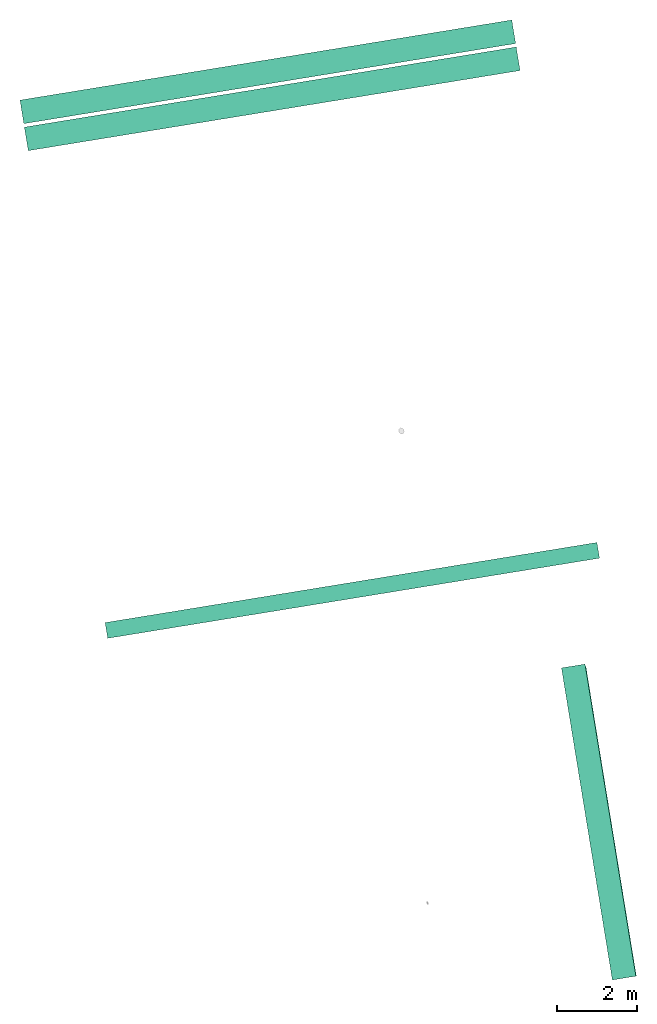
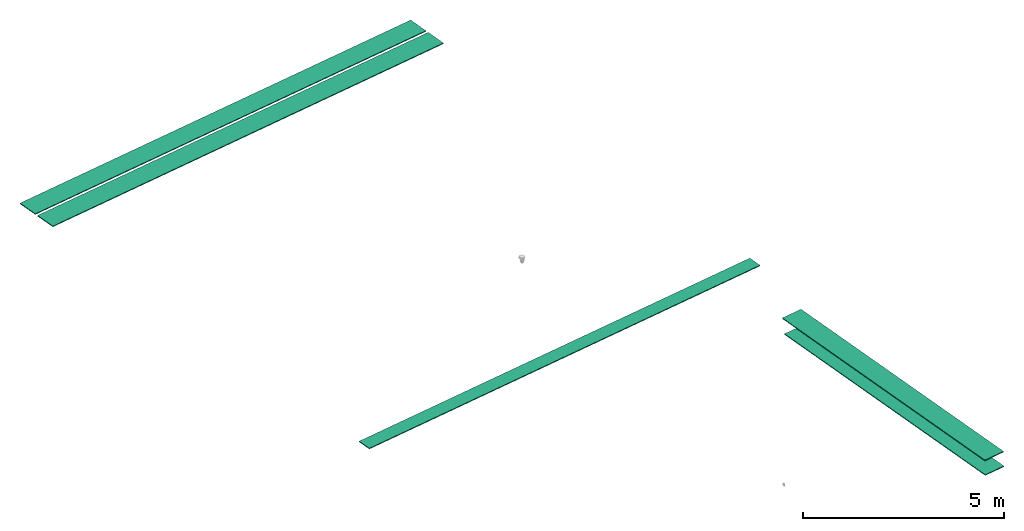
# One storey, part 1 of 2: 5 flow segments.
"""IFC2X3 building model written with IfcOpenShell, lengths in millimetres."""

from ifc_helpers import new_model, entity, si_unit, converted_unit, derived_unit, direction, frame, origin, origin_with_axes, place, context, subcontext, project, spatial, faceted_brep, material, type_object, element, save


model = new_model("IFC2X3")

# Units and contexts
model_context = context("Model", 3, precision=0.01, world=origin(), true_north=direction((6.12323399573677e-17, 1.0)))
plan_context = context("Plan", 3, precision=1e-05, world=origin_with_axes())
body_context = subcontext(model_context, "Body", "Model", "MODEL_VIEW")
ifc_project = project(units=[converted_unit("PLANEANGLEUNIT", "DEGREE", entity("IfcPositiveLengthMeasure", 0.0174532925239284), si_unit("PLANEANGLEUNIT", "RADIAN"), dimensions=[0, 0, 0, 0, 0, 0, 0]), si_unit("AREAUNIT", "SQUARE_METRE"), si_unit("LENGTHUNIT", "METRE", prefix="MILLI"), si_unit("MASSUNIT", "GRAM", prefix="KILO"), si_unit("POWERUNIT", "WATT"), si_unit("PRESSUREUNIT", "PASCAL", prefix="KILO"), si_unit("FORCEUNIT", "NEWTON", prefix="KILO"), si_unit("ELECTRICVOLTAGEUNIT", "VOLT"), si_unit("ELECTRICCURRENTUNIT", "AMPERE"), si_unit("THERMODYNAMICTEMPERATUREUNIT", "DEGREE_CELSIUS"), si_unit("TIMEUNIT", "SECOND"), si_unit("VOLUMEUNIT", "CUBIC_METRE"), derived_unit("LINEARVELOCITYUNIT", [(si_unit("LENGTHUNIT", "METRE"), 1), (si_unit("TIMEUNIT", "SECOND"), -1)]), derived_unit("VOLUMETRICFLOWRATEUNIT", [(si_unit("VOLUMEUNIT", "CUBIC_METRE"), 1), (si_unit("TIMEUNIT", "SECOND"), -1)]), derived_unit("THERMALTRANSMITTANCEUNIT", [(si_unit("POWERUNIT", "WATT"), 1), (si_unit("THERMODYNAMICTEMPERATUREUNIT", "KELVIN"), -1), (si_unit("AREAUNIT", "SQUARE_METRE"), -1)]), derived_unit("SOUNDPRESSUREUNIT", [(si_unit("PRESSUREUNIT", "PASCAL"), 1)])], contexts=[model_context, plan_context])

# Site, building, storey
site_placement = place(None, frame((5.09380697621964e-08, 5.80416781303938e-08, 0.0), z_axis=(0.0, 0.0, 1.0), x_axis=(-0.160806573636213, 0.986985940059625, 0.0)))
site = spatial("IfcSite", under=ifc_project, at=site_placement, Name="Default", CompositionType="ELEMENT")
building_placement = place(site_placement, frame((0.0, 0.0, 0.0), z_axis=(0.0, 0.0, 1.0), x_axis=(1.0, -2.77555756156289e-17, 0.0)))
building = spatial("IfcBuilding", under=site, at=building_placement, Name="Bygning (endres i Project Information)", CompositionType="ELEMENT")
storey_placement = place(building_placement, frame((0.0, 0.0, 51360.0000000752), z_axis=(0.0, 0.0, 1.0), x_axis=(1.0, -2.77555756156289e-17, 0.0)))
storey = spatial("IfcBuildingStorey", under=building, at=storey_placement, Name="H01-Nivå D+0,36", CompositionType="ELEMENT", Elevation=51360.0000000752)

# Flow segments
ifc_material = material(Name="Kabelstige")
cable_carrier_segment_type = type_object("IfcCableCarrierSegmentType", Name="Cable Tray with Fittings:Kabelstige", PredefinedType="CABLETRAYSEGMENT", material=ifc_material)
flow_segment_1_placement = place(storey_placement, frame((0.0, 0.0, 0.0), z_axis=(0.0, 0.0, 1.0), x_axis=(1.0, -2.77555756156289e-17, 0.0)))
element("IfcFlowSegment", 1, at=flow_segment_1_placement, inside=storey, type_object=cable_carrier_segment_type, Name="Cable Tray with Fittings:Kabelstige", ObjectType="Cable Tray with Fittings:Kabelstige", context=body_context, shape_type="Brep", body=[
    faceted_brep([(1002553.4395666, -384051.763990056, 3430.0), (1002553.4395666, -384051.763990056, 3454.99999999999), (1002553.4395666, -396579.084056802, 3454.99999999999), (1002553.4395666, -396579.084056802, 3430.0), (1002953.4395666, -396579.084056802, 3430.0), (1002953.4395666, -396579.084056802, 3454.99999999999), (1002953.4395666, -384051.763990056, 3454.99999999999), (1002953.4395666, -384051.763990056, 3430.0)], [[[0, 1, 2, 3]], [[4, 5, 6, 7]], [[7, 0, 3, 4]], [[1, 6, 5, 2]], [[7, 6, 1, 0]], [[5, 4, 3, 2]]], orient=[[False], [False], [False], [False], [False], [False]]),
])
flow_segment_2_placement = place(storey_placement, frame((0.0, 0.0, 0.0), z_axis=(0.0, 0.0, 1.0), x_axis=(1.0, -2.77555756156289e-17, 0.0)))
element("IfcFlowSegment", 2, at=flow_segment_2_placement, inside=storey, type_object=cable_carrier_segment_type, Name="Cable Tray with Fittings:Kabelstige", ObjectType="Cable Tray with Fittings:Kabelstige", context=body_context, shape_type="Brep", body=[
    faceted_brep([(1014973.89704938, -384051.763990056, 3430.0), (1014973.89704938, -384051.763990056, 3454.99999999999), (1014973.89704938, -396579.084056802, 3454.99999999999), (1014973.89704938, -396579.084056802, 3430.0), (1015573.89704938, -396579.084056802, 3430.0), (1015573.89704938, -396579.084056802, 3454.99999999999), (1015573.89704938, -384051.763990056, 3454.99999999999), (1015573.89704938, -384051.763990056, 3430.0)], [[[0, 1, 2, 3]], [[4, 5, 6, 7]], [[7, 0, 3, 4]], [[1, 6, 5, 2]], [[7, 6, 1, 0]], [[5, 4, 3, 2]]], orient=[[False], [False], [False], [False], [False], [False]]),
])
flow_segment_3_placement = place(storey_placement, frame((0.0, 0.0, 0.0), z_axis=(0.0, 0.0, 1.0), x_axis=(1.0, -2.77555756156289e-17, 0.0)))
element("IfcFlowSegment", 3, at=flow_segment_3_placement, inside=storey, type_object=cable_carrier_segment_type, Name="Cable Tray with Fittings:Kabelstige", ObjectType="Cable Tray with Fittings:Kabelstige", context=body_context, shape_type="Brep", body=[
    faceted_brep([(1015661.92708822, -384051.763990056, 3430.0), (1015661.92708822, -384051.763990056, 3454.99999999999), (1015661.92708822, -396579.084056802, 3454.99999999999), (1015661.92708822, -396579.084056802, 3430.0), (1016261.92708822, -396579.084056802, 3430.0), (1016261.92708822, -396579.084056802, 3454.99999999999), (1016261.92708822, -384051.763990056, 3454.99999999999), (1016261.92708822, -384051.763990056, 3430.0)], [[[0, 1, 2, 3]], [[4, 5, 6, 7]], [[7, 0, 3, 4]], [[1, 6, 5, 2]], [[7, 6, 1, 0]], [[5, 4, 3, 2]]], orient=[[False], [False], [False], [False], [False], [False]]),
])
flow_segment_4_placement = place(storey_placement, frame((0.0, 0.0, 0.0), z_axis=(0.0, 0.0, 1.0), x_axis=(1.0, -2.77555756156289e-17, 0.0)))
element("IfcFlowSegment", 4, at=flow_segment_4_placement, inside=storey, type_object=cable_carrier_segment_type, Name="Cable Tray with Fittings:Kabelstige", ObjectType="Cable Tray with Fittings:Kabelstige", context=body_context, shape_type="Brep", body=[
    faceted_brep([(999984.098259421, -395792.576152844, 3840.0), (999984.098259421, -395792.576152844, 3864.99999999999), (999984.098259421, -395192.576152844, 3864.99999999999), (999984.098259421, -395192.576152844, 3840.0), (992034.867643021, -395192.576152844, 3864.99999999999), (992034.867643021, -395192.576152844, 3840.0), (992034.867643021, -395792.576152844, 3840.0), (992034.867643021, -395792.576152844, 3864.99999999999)], [[[0, 1, 2, 3]], [[4, 5, 3, 2]], [[6, 7, 1, 0]], [[5, 6, 0, 3]], [[7, 4, 2, 1]], [[7, 6, 5, 4]]], orient=[[False], [False], [False], [False], [False], [False]]),
])
flow_segment_5_placement = place(storey_placement, frame((0.0, 0.0, 0.0), z_axis=(0.0, 0.0, 1.0), x_axis=(1.0, -2.77555756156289e-17, 0.0)))
element("IfcFlowSegment", 5, at=flow_segment_5_placement, inside=storey, type_object=cable_carrier_segment_type, Name="Cable Tray with Fittings:Kabelstige", ObjectType="Cable Tray with Fittings:Kabelstige", context=body_context, shape_type="Brep", body=[
    faceted_brep([(992034.867643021, -395805.776148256, 3390.0), (992034.867643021, -395805.776148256, 3414.99999999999), (999915.1329609, -395805.776148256, 3414.99999999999), (999915.1329609, -395805.776148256, 3390.0), (999915.1329609, -395205.776148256, 3414.99999999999), (999915.1329609, -395205.776148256, 3390.0), (992034.867643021, -395205.776148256, 3414.99999999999), (992034.867643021, -395205.776148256, 3390.0)], [[[0, 1, 2, 3]], [[3, 2, 4, 5]], [[6, 7, 5, 4]], [[7, 0, 3, 5]], [[1, 6, 4, 2]], [[7, 6, 1, 0]]], orient=[[False], [False], [False], [False], [False], [False]]),
])

save(model, "model.ifc")
